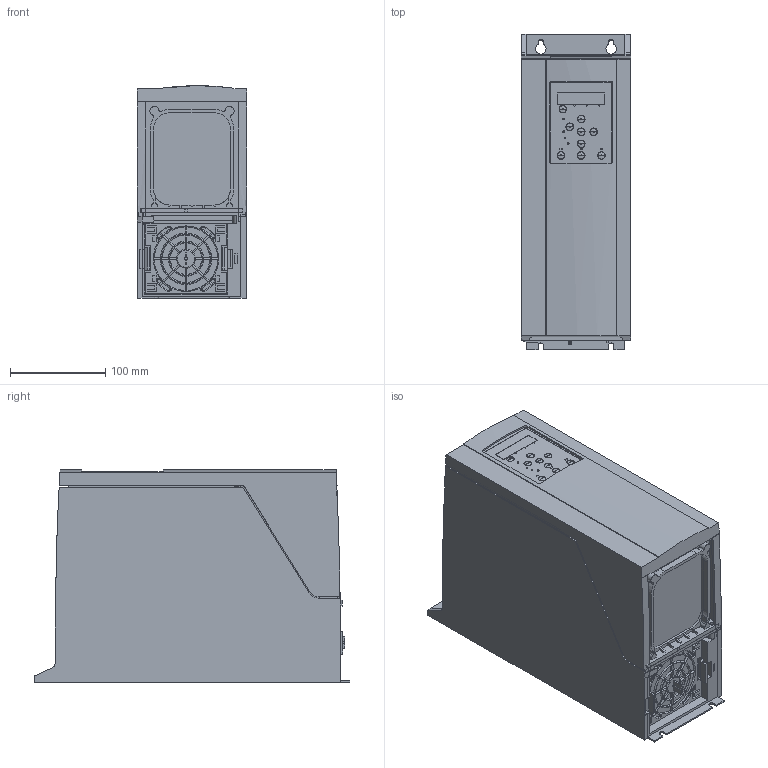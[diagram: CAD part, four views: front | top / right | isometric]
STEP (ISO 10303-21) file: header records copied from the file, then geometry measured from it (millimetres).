
FILE_DESCRIPTION((''),'2;1');
FILE_NAME('I2-IP54_ASM','2013-05-23T',('U243993'),('Danfoss Power Electronics'),'PRO/ENGINEER BY PARAMETRIC TECHNOLOGY CORPORATION, 2011490','PRO/ENGINEER BY PARAMETRIC TECHNOLOGY CORPORATION, 2011490','');
FILE_SCHEMA(('CONFIG_CONTROL_DESIGN', 'GEOMETRIC_VALIDATION_PROPERTIES_MIM'));
Products named in the file (20): 132B4151; 132B4160; 132B4157; 132B4237; 132B4190; 132B3529; 681Z1143; 132B3467; 132B3526_ASM; 132B4234_ASM; 132B4252; 132B4154; 132B4163; I2-WIRE-ENTRY-SKEL; TX-INSERT; 132B3532; I2-WIRE-ENTRY-ASSEMBLY_ASM; 132B4296; 132B9105_ASM; I2-IP54_ASM
Assembly tree (24 placements, depth 4):
  I2-IP54_ASM
    132B4151
    132B4160
    132B4234_ASM
      132B4157
      132B4237  x2
      132B4190
      132B3529  x2
      681Z1143  x2
      132B3526_ASM
        132B3467
    132B4252
    132B4154
    I2-WIRE-ENTRY-ASSEMBLY_ASM
      132B4163
      I2-WIRE-ENTRY-SKEL
      TX-INSERT  x2
      132B3532  x2
    132B9105_ASM
      132B4296
Bounding box: 115 x 332 x 223.47 mm (x, y, z)
Volume: 4334954.5 mm3; surface area: 749679.9 mm2
Topology: 21 solids, 31 shells, 4462 faces, 11161 edges, 6898 vertices
Faces by surface type: plane 1562, cylinder 1228, bspline 936, torus 444, extrusion 216, cone 68, sphere 8
Entity records: 146972 total; most frequent: CARTESIAN_POINT 56415, ORIENTED_EDGE 14902, DIRECTION 12644, PRESENTATION_STYLE_ASSIGNMENT 7477, STYLED_ITEM 7473, CURVE_STYLE 7451, EDGE_CURVE 7451, VERTEX_POINT 4663
